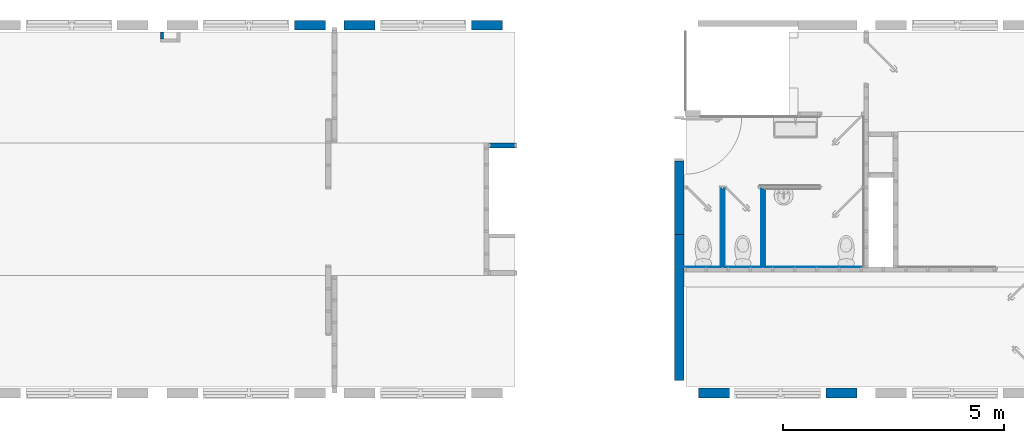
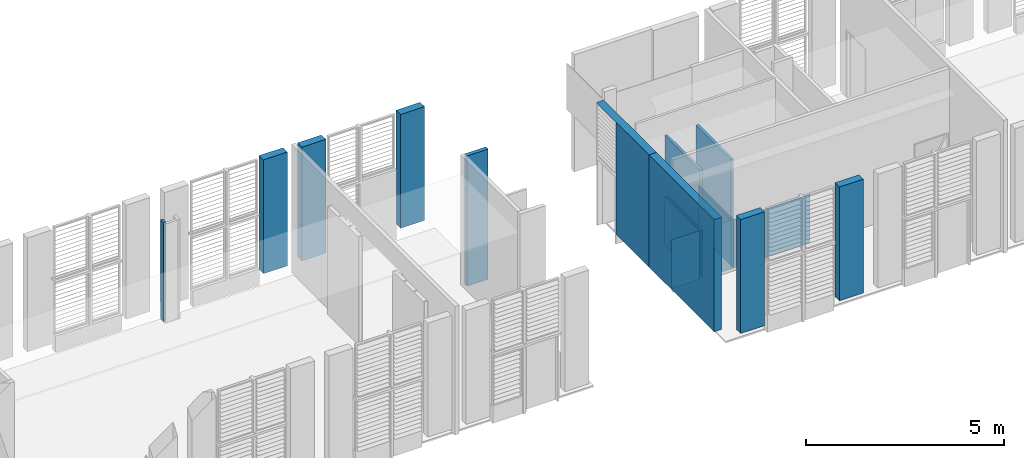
# One storey, part 4 of 8: 18 walls, 1 opening.
"""IFC2X3 building model written with IfcOpenShell, lengths in metres."""

from ifc_helpers import new_model, entity, si_unit, converted_unit, derived_unit, direction, frame, frame_2d, origin, place, context, subcontext, project, spatial, rectangle, extrude, material, layer, layer_set, layer_usage, type_object, element, save


model = new_model("IFC2X3")

# Units and contexts
model_context = context("Model", 3, precision=1e-05, world=origin(), true_north=direction((6.12303176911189e-17, 1.0)))
body_context = subcontext(model_context, "Body", "Model", "MODEL_VIEW")
ifc_project = project(units=[si_unit("LENGTHUNIT", "METRE"), si_unit("AREAUNIT", "SQUARE_METRE"), si_unit("VOLUMEUNIT", "CUBIC_METRE"), converted_unit("PLANEANGLEUNIT", "DEGREE", entity("IfcRatioMeasure", 0.0174532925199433), si_unit("PLANEANGLEUNIT", "RADIAN"), dimensions=[0, 0, 0, 0, 0, 0, 0]), si_unit("MASSUNIT", "GRAM", prefix="KILO"), derived_unit("MASSDENSITYUNIT", [(si_unit("MASSUNIT", "GRAM", prefix="KILO"), 1), (si_unit("LENGTHUNIT", "METRE"), -3)]), si_unit("TIMEUNIT", "SECOND"), si_unit("FREQUENCYUNIT", "HERTZ"), si_unit("THERMODYNAMICTEMPERATUREUNIT", "DEGREE_CELSIUS"), derived_unit("THERMALTRANSMITTANCEUNIT", [(si_unit("MASSUNIT", "GRAM", prefix="KILO"), 1), (si_unit("THERMODYNAMICTEMPERATUREUNIT", "KELVIN"), -1), (si_unit("TIMEUNIT", "SECOND"), -3)]), derived_unit("VOLUMETRICFLOWRATEUNIT", [(si_unit("LENGTHUNIT", "METRE"), 3), (si_unit("TIMEUNIT", "SECOND"), -1)]), si_unit("ELECTRICCURRENTUNIT", "AMPERE"), si_unit("ELECTRICVOLTAGEUNIT", "VOLT"), si_unit("POWERUNIT", "WATT"), si_unit("FORCEUNIT", "NEWTON", prefix="KILO"), si_unit("ILLUMINANCEUNIT", "LUX"), si_unit("LUMINOUSFLUXUNIT", "LUMEN"), si_unit("LUMINOUSINTENSITYUNIT", "CANDELA"), derived_unit("USERDEFINED", [(si_unit("MASSUNIT", "GRAM", prefix="KILO"), -1), (si_unit("LENGTHUNIT", "METRE"), -2), (si_unit("TIMEUNIT", "SECOND"), 3), (si_unit("LUMINOUSFLUXUNIT", "LUMEN"), 1)]), derived_unit("LINEARVELOCITYUNIT", [(si_unit("LENGTHUNIT", "METRE"), 1), (si_unit("TIMEUNIT", "SECOND"), -1)]), si_unit("PRESSUREUNIT", "PASCAL"), derived_unit("USERDEFINED", [(si_unit("LENGTHUNIT", "METRE"), -2), (si_unit("MASSUNIT", "GRAM", prefix="KILO"), 1), (si_unit("TIMEUNIT", "SECOND"), -2)])], contexts=[model_context])

# Site, building, storey
site_placement = place(None, origin())
site = spatial("IfcSite", under=ifc_project, at=site_placement, Name="Surface", CompositionType="ELEMENT")
building_placement = place(site_placement, origin())
building = spatial("IfcBuilding", under=site, at=building_placement, Name="ExPREF", CompositionType="ELEMENT")
storey_placement = place(building_placement, origin())
storey = spatial("IfcBuildingStorey", under=building, at=storey_placement, Name="RDC", CompositionType="ELEMENT", Elevation=-6.89719131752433e-12)

# Walls
ifc_material_1 = material(Name="AA-mur cloison finition")
ifc_layer_1 = layer(ifc_material_1, 0.018)
ifc_material_2 = material(Name="AA-isolant plancher")
ifc_layer_2 = layer(ifc_material_2, 0.08)
ifc_layer_3 = layer(ifc_material_1, 0.018)
ifc_layer_set_1 = layer_set([ifc_layer_1, ifc_layer_2, ifc_layer_3], Name="Mur de base:A-cloison CP 11.6 cm")
ifc_layer_usage_1 = layer_usage(ifc_layer_set_1, "AXIS2", "POSITIVE", -0.058)
wall_type_1 = type_object("IfcWallType", Name="Mur de base:A-cloison CP 11.6 cm", PredefinedType="STANDARD", material=ifc_layer_set_1)
wall_1_placement = place(storey_placement, frame((40.977743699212, -187.766069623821, -0.01)))
element("IfcWallStandardCase", 1, at=wall_1_placement, inside=storey, type_object=wall_type_1, material=ifc_layer_usage_1, Name="Mur de base:A-cloison CP 11.6 cm", ObjectType="Mur de base:A-cloison CP 11.6 cm", context=body_context, shape_type="SweptSolid", body=[
    extrude(rectangle(XDim=0.621999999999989, YDim=0.115999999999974, at=frame_2d((0.310999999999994, 0.0), x_axis=(-1.0, 0.0))), origin(), (0.0, 0.0, 1.0), 4.00999999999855),
])
ifc_material_3 = material(Name="AA-fermacell peint")
ifc_layer_4 = layer(ifc_material_3, 0.0125)
ifc_layer_5 = layer(ifc_material_2, 0.045)
ifc_layer_6 = layer(ifc_material_3, 0.0125)
ifc_layer_set_2 = layer_set([ifc_layer_4, ifc_layer_5, ifc_layer_6], Name="Mur de base:Générique - Int. 70 mm")
ifc_layer_usage_2 = layer_usage(ifc_layer_set_2, "AXIS2", "NEGATIVE", 0.035)
wall_type_2 = type_object("IfcWallType", Name="Mur de base:Générique - Int. 70 mm", PredefinedType="STANDARD", material=ifc_layer_set_2)
wall_2_placement = place(storey_placement, frame((47.164743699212, -188.75106962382, 0.0), z_axis=(0.0, 0.0, 1.0), x_axis=(0.0, -1.0, 0.0)))
element("IfcWallStandardCase", 2, at=wall_2_placement, inside=storey, type_object=wall_type_2, material=ifc_layer_usage_2, Name="Mur de base:Générique - Int. 70 mm", ObjectType="Mur de base:Générique - Int. 70 mm", context=body_context, shape_type="SweptSolid", body=[
    extrude(rectangle(XDim=1.76449999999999, YDim=0.0700000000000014, at=frame_2d((0.882249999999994, 0.0), x_axis=(-1.0, 0.0))), origin(), (0.0, 0.0, 1.0), 3.3700000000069),
])
ifc_layer_usage_3 = layer_usage(ifc_layer_set_2, "AXIS2", "NEGATIVE", 0.035)
wall_3_placement = place(storey_placement, frame((46.254743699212, -188.75106962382, 0.0), z_axis=(0.0, 0.0, 1.0), x_axis=(0.0, -1.0, 0.0)))
element("IfcWallStandardCase", 3, at=wall_3_placement, inside=storey, type_object=wall_type_2, material=ifc_layer_usage_3, Name="Mur de base:Générique - Int. 70 mm", ObjectType="Mur de base:Générique - Int. 70 mm", context=body_context, shape_type="SweptSolid", body=[
    extrude(rectangle(XDim=1.76449999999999, YDim=0.0700000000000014, at=frame_2d((0.882249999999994, 0.0), x_axis=(-1.0, 0.0))), origin(), (0.0, 0.0, 1.0), 3.3700000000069),
])
ifc_layer_usage_4 = layer_usage(ifc_layer_set_2, "AXIS2", "POSITIVE", -0.035)
wall_4_placement = place(storey_placement, frame((33.5947436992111, -185.206487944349, 0.0), z_axis=(0.0, 0.0, 1.0), x_axis=(0.0, -1.0, 0.0)))
element("IfcWallStandardCase", 4, at=wall_4_placement, inside=storey, type_object=wall_type_2, material=ifc_layer_usage_4, Name="Mur de base:Générique - Int. 70 mm", ObjectType="Mur de base:Générique - Int. 70 mm", context=body_context, shape_type="SweptSolid", body=[
    extrude(rectangle(XDim=0.159999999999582, YDim=0.0700000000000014, at=frame_2d((0.0799999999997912, 0.0), x_axis=(-1.0, 0.0))), origin(), (0.0, 0.0, 1.0), 3.05),
])

# Wall, opening
ifc_material_4 = material(Name="AA-BTC")
ifc_layer_7 = layer(ifc_material_4, 0.22)
ifc_layer_set_3 = layer_set([ifc_layer_7], Name="Mur de base:A-prémur BTC")
ifc_layer_usage_5 = layer_usage(ifc_layer_set_3, "AXIS2", "NEGATIVE", 0.11)
wall_type_3 = type_object("IfcWallType", Name="Mur de base:A-prémur BTC", PredefinedType="STANDARD", material=ifc_layer_set_3)
wall_5_placement = place(storey_placement, frame((45.269743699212, -189.77806962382, 0.3), z_axis=(0.0, 0.0, 1.0), x_axis=(0.0, 1.0, 0.0)))
wall_5 = element("IfcWallStandardCase", 5, at=wall_5_placement, inside=storey, type_object=wall_type_3, material=ifc_layer_usage_5, Name="Mur de base:A-prémur BTC", ObjectType="Mur de base:A-prémur BTC", context=body_context, shape_type="SweptSolid", body=[
    extrude(rectangle(XDim=2.66158136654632, YDim=0.220000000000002, at=frame_2d((1.33079068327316, 1.31838984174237e-16), x_axis=(-1.0, 0.0))), origin(), (0.0, 0.0, 1.0), 3.4600000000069),
])
opening_placement = place(wall_5_placement, frame((2.66158136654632, 0.110000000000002, -0.300000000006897)))
element("IfcOpeningElement", 6, at=opening_placement, cuts=wall_5, Name="Porte extérieur + naco RDC:PP (0.93m x 2.04m):1", ObjectType="Opening", context=body_context, shape_type="SweptSolid", body=[
    extrude(rectangle(XDim=3.75571000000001, YDim=0.999999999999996, at=frame_2d((1.877855, 0.500000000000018), x_axis=(1.0, 0.0))), frame((0.0, 0.0, 0.0), z_axis=(0.0, -1.0, 0.0), x_axis=(0.0, 0.0, 1.0)), (0.0, 0.0, 1.0), 0.22),
])

# Walls
ifc_layer_usage_6 = layer_usage(ifc_layer_set_3, "AXIS2", "POSITIVE", -0.11)
wall_6_placement = place(storey_placement, frame((49.2797436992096, -193.359651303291, 0.300000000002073), z_axis=(0.0, 0.0, 1.0), x_axis=(-1.0, 0.0, 0.0)))
element("IfcWallStandardCase", 7, at=wall_6_placement, inside=storey, type_object=wall_type_3, material=ifc_layer_usage_6, Name="Mur de base:A-prémur BTC", ObjectType="Mur de base:A-prémur BTC", context=body_context, shape_type="SweptSolid", body=[
    extrude(rectangle(XDim=0.699999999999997, YDim=0.220000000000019, at=frame_2d((0.349999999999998, 0.0), x_axis=(-1.0, 0.0))), origin(), (0.0, 0.0, 1.0), 3.51000000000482),
])
ifc_layer_usage_7 = layer_usage(ifc_layer_set_3, "AXIS2", "NEGATIVE", 0.11)
wall_7_placement = place(storey_placement, frame((41.2797436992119, -185.056487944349, 0.300000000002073), z_axis=(0.0, 0.0, 1.0), x_axis=(-1.0, 0.0, 0.0)))
element("IfcWallStandardCase", 8, at=wall_7_placement, inside=storey, type_object=wall_type_3, material=ifc_layer_usage_7, Name="Mur de base:A-prémur BTC", ObjectType="Mur de base:A-prémur BTC", context=body_context, shape_type="SweptSolid", body=[
    extrude(rectangle(XDim=0.699999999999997, YDim=0.220000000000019, at=frame_2d((0.349999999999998, -2.13024042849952e-15), x_axis=(-1.0, 0.0))), origin(), (0.0, 0.0, 1.0), 3.51000000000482),
])
ifc_layer_usage_8 = layer_usage(ifc_layer_set_3, "AXIS2", "NEGATIVE", 0.11)
wall_8_placement = place(storey_placement, frame((37.2797436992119, -185.056487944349, 0.300000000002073), z_axis=(0.0, 0.0, 1.0), x_axis=(-1.0, 0.0, 0.0)))
element("IfcWallStandardCase", 9, at=wall_8_placement, inside=storey, type_object=wall_type_3, material=ifc_layer_usage_8, Name="Mur de base:A-prémur BTC", ObjectType="Mur de base:A-prémur BTC", context=body_context, shape_type="SweptSolid", body=[
    extrude(rectangle(XDim=0.700000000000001, YDim=0.220000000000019, at=frame_2d((0.350000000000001, -2.13024042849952e-15), x_axis=(-1.0, 0.0))), origin(), (0.0, 0.0, 1.0), 3.51000000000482),
])
ifc_layer_usage_9 = layer_usage(ifc_layer_set_3, "AXIS2", "NEGATIVE", 0.11)
wall_9_placement = place(storey_placement, frame((45.6997436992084, -193.359651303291, 0.300000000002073)))
element("IfcWallStandardCase", 10, at=wall_9_placement, inside=storey, type_object=wall_type_3, material=ifc_layer_usage_9, Name="Mur de base:A-prémur BTC", ObjectType="Mur de base:A-prémur BTC", context=body_context, shape_type="SweptSolid", body=[
    extrude(rectangle(XDim=0.699999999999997, YDim=0.220000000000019, at=frame_2d((0.349999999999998, 0.0), x_axis=(-1.0, 0.0))), origin(), (0.0, 0.0, 1.0), 3.51000000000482),
])
ifc_layer_usage_10 = layer_usage(ifc_layer_set_3, "AXIS2", "POSITIVE", -0.11)
wall_10_placement = place(storey_placement, frame((37.6997436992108, -185.056487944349, 0.300000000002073)))
element("IfcWallStandardCase", 11, at=wall_10_placement, inside=storey, type_object=wall_type_3, material=ifc_layer_usage_10, Name="Mur de base:A-prémur BTC", ObjectType="Mur de base:A-prémur BTC", context=body_context, shape_type="SweptSolid", body=[
    extrude(rectangle(XDim=0.700000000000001, YDim=0.220000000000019, at=frame_2d((0.350000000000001, -2.13024042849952e-15), x_axis=(-1.0, 0.0))), origin(), (0.0, 0.0, 1.0), 3.51000000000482),
])
ifc_layer_usage_11 = layer_usage(ifc_layer_set_3, "AXIS2", "NEGATIVE", 0.11)
wall_11_placement = place(storey_placement, frame((45.269743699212, -193.069651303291, 0.3), z_axis=(0.0, 0.0, 1.0), x_axis=(0.0, 1.0, 0.0)))
element("IfcWallStandardCase", 12, at=wall_11_placement, inside=storey, type_object=wall_type_3, material=ifc_layer_usage_11, Name="Mur de base:A-prémur BTC", ObjectType="Mur de base:A-prémur BTC", context=body_context, shape_type="SweptSolid", body=[
    extrude(rectangle(XDim=3.2915816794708, YDim=0.220000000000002, at=frame_2d((1.6457908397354, 2.70616862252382e-16), x_axis=(-1.0, 0.0))), origin(), (0.0, 0.0, 1.0), 3.4600000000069),
])
ifc_material_5 = material(Name="AA-sol carrelage")
ifc_layer_8 = layer(ifc_material_5, 0.01)
ifc_layer_set_4 = layer_set([ifc_layer_8], Name="Mur de base:A-carrelage")
ifc_layer_usage_12 = layer_usage(ifc_layer_set_4, "AXIS2", "NEGATIVE", 0.005)
wall_type_4 = type_object("IfcWallType", Name="Mur de base:A-carrelage", PredefinedType="STANDARD", material=ifc_layer_set_4)
wall_12_placement = place(storey_placement, frame((49.4272436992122, -190.51056962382, 0.0), z_axis=(0.0, 0.0, 1.0), x_axis=(-1.0, 0.0, 0.0)))
element("IfcWallStandardCase", 13, at=wall_12_placement, inside=storey, type_object=wall_type_4, material=ifc_layer_usage_12, Name="Mur de base:A-carrelage", ObjectType="Mur de base:A-carrelage", context=body_context, shape_type="SweptSolid", body=[
    extrude(rectangle(XDim=2.22750000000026, YDim=0.0100000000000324, at=frame_2d((1.11375000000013, 0.0), x_axis=(-1.0, 0.0))), origin(), (0.0, 0.0, 1.0), 1.5),
])
ifc_layer_usage_13 = layer_usage(ifc_layer_set_4, "AXIS2", "NEGATIVE", 0.005)
wall_13_placement = place(storey_placement, frame((47.204743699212, -190.50556962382, 0.0), z_axis=(0.0, 0.0, 1.0), x_axis=(0.0, 1.0, 0.0)))
element("IfcWallStandardCase", 14, at=wall_13_placement, inside=storey, type_object=wall_type_4, material=ifc_layer_usage_13, Name="Mur de base:A-carrelage", ObjectType="Mur de base:A-carrelage", context=body_context, shape_type="SweptSolid", body=[
    extrude(rectangle(XDim=1.75449999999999, YDim=0.00999999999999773, at=frame_2d((0.877249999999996, 0.0), x_axis=(-1.0, 0.0))), origin(), (0.0, 0.0, 1.0), 1.5),
])
ifc_layer_usage_14 = layer_usage(ifc_layer_set_4, "AXIS2", "NEGATIVE", 0.005)
wall_14_placement = place(storey_placement, frame((47.124743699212, -188.75106962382, 0.0), z_axis=(0.0, 0.0, 1.0), x_axis=(0.0, -1.0, 0.0)))
element("IfcWallStandardCase", 15, at=wall_14_placement, inside=storey, type_object=wall_type_4, material=ifc_layer_usage_14, Name="Mur de base:A-carrelage", ObjectType="Mur de base:A-carrelage", context=body_context, shape_type="SweptSolid", body=[
    extrude(rectangle(XDim=1.76449999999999, YDim=0.00999999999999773, at=frame_2d((0.882249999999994, 0.0), x_axis=(-1.0, 0.0))), origin(), (0.0, 0.0, 1.0), 1.5),
])
ifc_layer_usage_15 = layer_usage(ifc_layer_set_4, "AXIS2", "NEGATIVE", 0.005)
wall_15_placement = place(storey_placement, frame((47.119743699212, -190.51056962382, 0.0), z_axis=(0.0, 0.0, 1.0), x_axis=(-1.0, 0.0, 0.0)))
element("IfcWallStandardCase", 16, at=wall_15_placement, inside=storey, type_object=wall_type_4, material=ifc_layer_usage_15, Name="Mur de base:A-carrelage", ObjectType="Mur de base:A-carrelage", context=body_context, shape_type="SweptSolid", body=[
    extrude(rectangle(XDim=0.830000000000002, YDim=0.0100000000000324, at=frame_2d((0.415000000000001, 0.0), x_axis=(-1.0, 0.0))), origin(), (0.0, 0.0, 1.0), 1.5),
])
ifc_layer_usage_16 = layer_usage(ifc_layer_set_4, "AXIS2", "NEGATIVE", 0.005)
wall_16_placement = place(storey_placement, frame((46.294743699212, -190.50556962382, 0.0), z_axis=(0.0, 0.0, 1.0), x_axis=(0.0, 1.0, 0.0)))
element("IfcWallStandardCase", 17, at=wall_16_placement, inside=storey, type_object=wall_type_4, material=ifc_layer_usage_16, Name="Mur de base:A-carrelage", ObjectType="Mur de base:A-carrelage", context=body_context, shape_type="SweptSolid", body=[
    extrude(rectangle(XDim=1.75449999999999, YDim=0.00999999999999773, at=frame_2d((0.877249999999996, 0.0), x_axis=(-1.0, 0.0))), origin(), (0.0, 0.0, 1.0), 1.5),
])
ifc_layer_usage_17 = layer_usage(ifc_layer_set_4, "AXIS2", "NEGATIVE", 0.005)
wall_17_placement = place(storey_placement, frame((46.214743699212, -188.75106962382, 0.0), z_axis=(0.0, 0.0, 1.0), x_axis=(0.0, -1.0, 0.0)))
element("IfcWallStandardCase", 18, at=wall_17_placement, inside=storey, type_object=wall_type_4, material=ifc_layer_usage_17, Name="Mur de base:A-carrelage", ObjectType="Mur de base:A-carrelage", context=body_context, shape_type="SweptSolid", body=[
    extrude(rectangle(XDim=1.76449999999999, YDim=0.00999999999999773, at=frame_2d((0.882249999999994, 0.0), x_axis=(-1.0, 0.0))), origin(), (0.0, 0.0, 1.0), 1.5),
])
ifc_layer_usage_18 = layer_usage(ifc_layer_set_4, "AXIS2", "NEGATIVE", 0.005)
wall_18_placement = place(storey_placement, frame((46.209743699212, -190.51056962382, 0.0), z_axis=(0.0, 0.0, 1.0), x_axis=(-1.0, 0.0, 0.0)))
element("IfcWallStandardCase", 19, at=wall_18_placement, inside=storey, type_object=wall_type_4, material=ifc_layer_usage_18, Name="Mur de base:A-carrelage", ObjectType="Mur de base:A-carrelage", context=body_context, shape_type="SweptSolid", body=[
    extrude(rectangle(XDim=0.825000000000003, YDim=0.0100000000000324, at=frame_2d((0.412500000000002, 0.0), x_axis=(-1.0, 0.0))), origin(), (0.0, 0.0, 1.0), 1.5),
])

save(model, "model.ifc")
